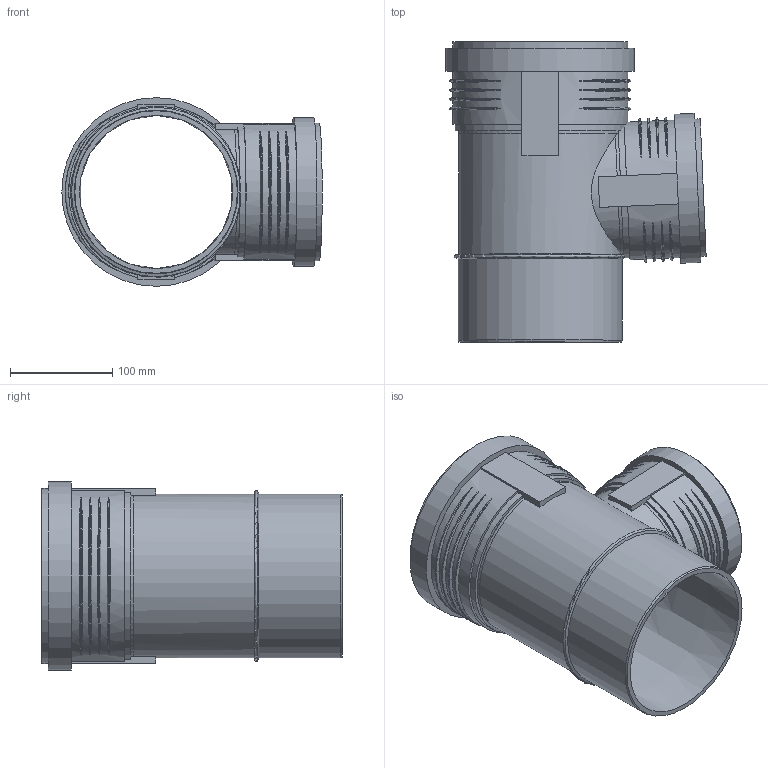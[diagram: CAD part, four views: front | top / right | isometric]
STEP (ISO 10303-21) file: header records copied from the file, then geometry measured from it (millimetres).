
FILE_DESCRIPTION(/* description */ (''),/* implementation_level */ '2;1');
FILE_NAME(/* name */ 'Z:\Geberit\Export\NewStep\390752.stp',/* time_stamp */ '2014-04-02T08:16:56+02:00',/* author */ ('ML'),/* organization */ (''),/* preprocessor_version */ 'ST-DEVELOPER v15.2',/* originating_system */ 'Autodesk Inventor 2014',/* authorisation */ '');
FILE_SCHEMA (('AUTOMOTIVE_DESIGN { 1 0 10303 214 3 1 1 }'));
Length unit declared in the file: millimetre
Products named in the file (4): 861615; 861625; 861560; 390752
Bounding box: 254.66 x 293.7 x 184.5 mm (x, y, z)
Volume: 949474.3 mm3; surface area: 415526.8 mm2
Topology: 3 solids, 3 shells, 129 faces, 319 edges, 221 vertices
Faces by surface type: torus 50, plane 37, cylinder 33, cone 9
Full cylindrical faces by diameter (mm): 116.8 x1, 117 x1, 125.2 x1, 126.4 x2, 134.6 x1, 137.7 x1, 145.9 x1, 150.65 x1, 160.25 x2, 161.7 x2, 171.3 x1, 174.9 x1, 184.5 x1
Entity records: 5384 total; most frequent: CARTESIAN_POINT 2328, ORIENTED_EDGE 576, DIRECTION 555, EDGE_CURVE 288, AXIS2_PLACEMENT_3D 241, VERTEX_POINT 214, EDGE_LOOP 186, ADVANCED_FACE 129
